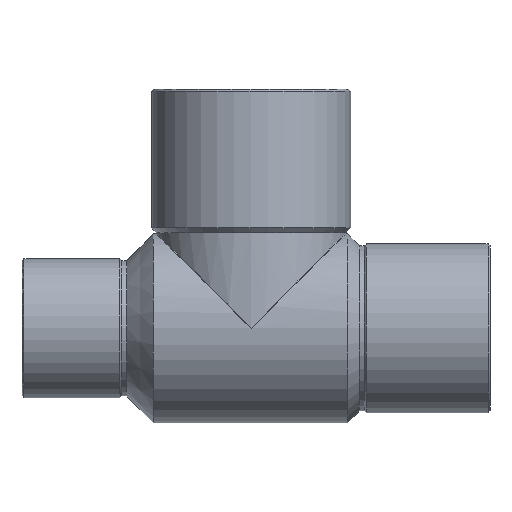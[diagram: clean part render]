
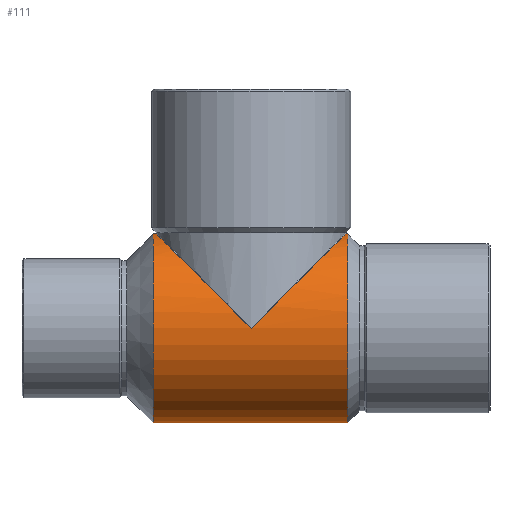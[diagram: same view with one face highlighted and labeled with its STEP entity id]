
A CAD part, top view. The second image highlights one B-rep face of the part: STEP entity #111.
In plain terms, the highlighted cylindrical face has radius 9.5 mm (diameter 19 mm), a partial arc.
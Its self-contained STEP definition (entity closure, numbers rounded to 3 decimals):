
#44=CARTESIAN_POINT('',(0.5,0.,0.0));
#45=DIRECTION('',(1.0,0.,0.0));
#46=DIRECTION('',(0.,1.0,0.0));
#47=AXIS2_PLACEMENT_3D('',#44,#45,#46);
#48=CYLINDRICAL_SURFACE('',#47,9.5);
#49=CARTESIAN_POINT('',(-9.8,9.5,0.));
#50=VERTEX_POINT('',#49);
#51=CARTESIAN_POINT('',(-9.55,9.5,0.));
#52=VERTEX_POINT('',#51);
#53=CARTESIAN_POINT('',(-9.8,9.5,0.));
#54=DIRECTION('',(1.0,0.0,0.0));
#55=VECTOR('',#54,0.25);
#56=LINE('',#53,#55);
#57=EDGE_CURVE('',#50,#52,#56,.T.);
#58=ORIENTED_EDGE('',*,*,#57,.F.);
#59=CARTESIAN_POINT('',(-9.8,-9.5,0.));
#60=VERTEX_POINT('',#59);
#61=CARTESIAN_POINT('',(-9.8,0.,0.0));
#62=DIRECTION('',(1.0,0.,0.0));
#63=DIRECTION('',(0.,1.0,0.0));
#64=AXIS2_PLACEMENT_3D('',#61,#62,#63);
#65=CIRCLE('',#64,9.5);
#66=EDGE_CURVE('',#50,#60,#65,.T.);
#67=ORIENTED_EDGE('',*,*,#66,.T.);
#68=CARTESIAN_POINT('',(9.69,-9.5,0.));
#69=VERTEX_POINT('',#68);
#70=CARTESIAN_POINT('',(9.69,-9.5,0.));
#71=DIRECTION('',(-1.0,0.0,0.0));
#72=VECTOR('',#71,19.49);
#73=LINE('',#70,#72);
#74=EDGE_CURVE('',#69,#60,#73,.T.);
#75=ORIENTED_EDGE('',*,*,#74,.F.);
#76=CARTESIAN_POINT('',(9.69,9.5,0.));
#77=VERTEX_POINT('',#76);
#78=CARTESIAN_POINT('',(9.69,0.,0.0));
#79=DIRECTION('',(-1.0,0.,0.0));
#80=DIRECTION('',(0.,1.0,0.0));
#81=AXIS2_PLACEMENT_3D('',#78,#79,#80);
#82=CIRCLE('',#81,9.5);
#83=EDGE_CURVE('',#69,#77,#82,.T.);
#84=ORIENTED_EDGE('',*,*,#83,.T.);
#85=CARTESIAN_POINT('',(9.55,9.5,0.));
#86=VERTEX_POINT('',#85);
#87=CARTESIAN_POINT('',(9.55,9.5,0.));
#88=DIRECTION('',(1.0,0.0,0.0));
#89=VECTOR('',#88,0.14);
#90=LINE('',#87,#89);
#91=EDGE_CURVE('',#86,#77,#90,.T.);
#92=ORIENTED_EDGE('',*,*,#91,.F.);
#93=CARTESIAN_POINT('',(0.,0.,9.5));
#94=VERTEX_POINT('',#93);
#95=CARTESIAN_POINT('',(0.,0.,0.0));
#96=DIRECTION('',(-0.705,0.709,0.));
#97=DIRECTION('',(0.709,0.705,0.0));
#98=AXIS2_PLACEMENT_3D('',#95,#96,#97);
#99=ELLIPSE('',#98,13.47,9.5);
#100=EDGE_CURVE('',#94,#86,#99,.T.);
#101=ORIENTED_EDGE('',*,*,#100,.F.);
#102=CARTESIAN_POINT('',(0.,0.,0.0));
#103=DIRECTION('',(0.705,0.709,0.));
#104=DIRECTION('',(-0.709,0.705,0.0));
#105=AXIS2_PLACEMENT_3D('',#102,#103,#104);
#106=ELLIPSE('',#105,13.47,9.5);
#107=EDGE_CURVE('',#52,#94,#106,.T.);
#108=ORIENTED_EDGE('',*,*,#107,.F.);
#109=EDGE_LOOP('',(#58,#67,#75,#84,#92,#101,#108));
#110=FACE_OUTER_BOUND('',#109,.T.);
#111=ADVANCED_FACE('',(#110),#48,.T.);
